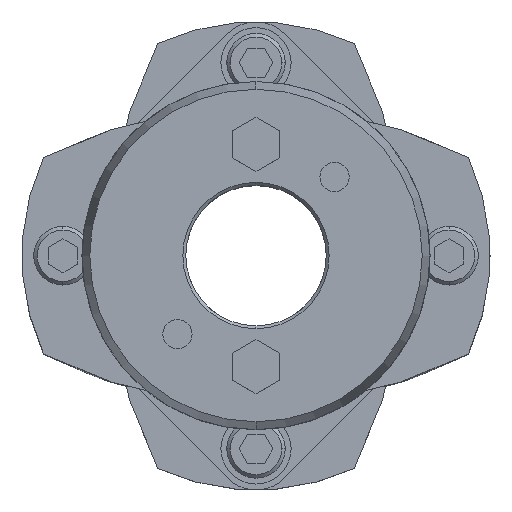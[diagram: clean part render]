
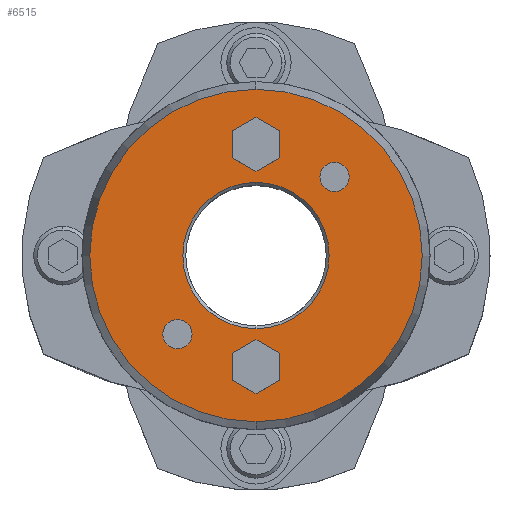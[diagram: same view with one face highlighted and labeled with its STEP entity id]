
A CAD part, top view. The second image highlights one B-rep face of the part: STEP entity #6515.
In plain terms, the highlighted planar face has unit normal (0, 0, 1).
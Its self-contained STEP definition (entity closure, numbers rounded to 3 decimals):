
#1677=CARTESIAN_POINT('',(0.,12.5,45.25));
#1678=VERTEX_POINT('',#1677);
#1694=CARTESIAN_POINT('',(0.,-12.5,45.25));
#1695=VERTEX_POINT('',#1694);
#1702=CARTESIAN_POINT('',(0.,0.,45.25));
#1703=DIRECTION('',(0.0,0.0,1.0));
#1704=DIRECTION('',(0.,1.0,0.0));
#1705=AXIS2_PLACEMENT_3D('',#1702,#1703,#1704);
#1706=CIRCLE('',#1705,12.5);
#1707=EDGE_CURVE('',#1695,#1678,#1706,.T.);
#1823=CARTESIAN_POINT('',(0.,-28.41,45.25));
#1824=VERTEX_POINT('',#1823);
#1833=CARTESIAN_POINT('',(0.,28.41,45.25));
#1834=VERTEX_POINT('',#1833);
#1835=CARTESIAN_POINT('',(0.,0.,45.25));
#1836=DIRECTION('',(0.0,0.0,-1.0));
#1837=DIRECTION('',(0.,-1.0,0.0));
#1838=AXIS2_PLACEMENT_3D('',#1835,#1836,#1837);
#1839=CIRCLE('',#1838,28.41);
#1840=EDGE_CURVE('',#1824,#1834,#1839,.T.);
#2009=CARTESIAN_POINT('',(13.435,15.935,45.25));
#2010=VERTEX_POINT('',#2009);
#2026=CARTESIAN_POINT('',(13.435,10.935,45.25));
#2027=VERTEX_POINT('',#2026);
#2034=CARTESIAN_POINT('',(13.435,13.435,45.25));
#2035=DIRECTION('',(0.0,0.0,-1.0));
#2036=DIRECTION('',(0.,1.0,0.0));
#2037=AXIS2_PLACEMENT_3D('',#2034,#2035,#2036);
#2038=CIRCLE('',#2037,2.5);
#2039=EDGE_CURVE('',#2010,#2027,#2038,.T.);
#2051=CARTESIAN_POINT('',(-13.435,-10.935,45.25));
#2052=VERTEX_POINT('',#2051);
#2068=CARTESIAN_POINT('',(-13.435,-15.935,45.25));
#2069=VERTEX_POINT('',#2068);
#2076=CARTESIAN_POINT('',(-13.435,-13.435,45.25));
#2077=DIRECTION('',(0.0,0.0,-1.0));
#2078=DIRECTION('',(0.,1.0,0.0));
#2079=AXIS2_PLACEMENT_3D('',#2076,#2077,#2078);
#2080=CIRCLE('',#2079,2.5);
#2081=EDGE_CURVE('',#2052,#2069,#2080,.T.);
#5641=CARTESIAN_POINT('',(0.,-14.381,45.25));
#5642=VERTEX_POINT('',#5641);
#5649=CARTESIAN_POINT('',(-4.,-16.691,45.25));
#5650=VERTEX_POINT('',#5649);
#5651=CARTESIAN_POINT('',(-4.,-16.691,45.25));
#5652=DIRECTION('',(0.866,0.5,0.0));
#5653=VECTOR('',#5652,4.619);
#5654=LINE('',#5651,#5653);
#5655=EDGE_CURVE('',#5650,#5642,#5654,.T.);
#5679=CARTESIAN_POINT('',(4.,-16.691,45.25));
#5680=VERTEX_POINT('',#5679);
#5687=CARTESIAN_POINT('',(0.,-14.381,45.25));
#5688=DIRECTION('',(0.866,-0.5,0.0));
#5689=VECTOR('',#5688,4.619);
#5690=LINE('',#5687,#5689);
#5691=EDGE_CURVE('',#5642,#5680,#5690,.T.);
#5710=CARTESIAN_POINT('',(4.,-21.309,45.25));
#5711=VERTEX_POINT('',#5710);
#5718=CARTESIAN_POINT('',(4.,-16.691,45.25));
#5719=DIRECTION('',(0.,-1.0,0.0));
#5720=VECTOR('',#5719,4.619);
#5721=LINE('',#5718,#5720);
#5722=EDGE_CURVE('',#5680,#5711,#5721,.T.);
#5741=CARTESIAN_POINT('',(0.,-23.619,45.25));
#5742=VERTEX_POINT('',#5741);
#5749=CARTESIAN_POINT('',(4.,-21.309,45.25));
#5750=DIRECTION('',(-0.866,-0.5,0.0));
#5751=VECTOR('',#5750,4.619);
#5752=LINE('',#5749,#5751);
#5753=EDGE_CURVE('',#5711,#5742,#5752,.T.);
#5772=CARTESIAN_POINT('',(-4.,-21.309,45.25));
#5773=VERTEX_POINT('',#5772);
#5780=CARTESIAN_POINT('',(0.,-23.619,45.25));
#5781=DIRECTION('',(-0.866,0.5,0.0));
#5782=VECTOR('',#5781,4.619);
#5783=LINE('',#5780,#5782);
#5784=EDGE_CURVE('',#5742,#5773,#5783,.T.);
#5802=CARTESIAN_POINT('',(-4.,-21.309,45.25));
#5803=DIRECTION('',(0.,1.0,0.0));
#5804=VECTOR('',#5803,4.619);
#5805=LINE('',#5802,#5804);
#5806=EDGE_CURVE('',#5773,#5650,#5805,.T.);
#5841=CARTESIAN_POINT('',(0.,23.619,45.25));
#5842=VERTEX_POINT('',#5841);
#5849=CARTESIAN_POINT('',(-4.,21.309,45.25));
#5850=VERTEX_POINT('',#5849);
#5851=CARTESIAN_POINT('',(-4.,21.309,45.25));
#5852=DIRECTION('',(0.866,0.5,0.0));
#5853=VECTOR('',#5852,4.619);
#5854=LINE('',#5851,#5853);
#5855=EDGE_CURVE('',#5850,#5842,#5854,.T.);
#5879=CARTESIAN_POINT('',(4.,21.309,45.25));
#5880=VERTEX_POINT('',#5879);
#5887=CARTESIAN_POINT('',(0.,23.619,45.25));
#5888=DIRECTION('',(0.866,-0.5,0.0));
#5889=VECTOR('',#5888,4.619);
#5890=LINE('',#5887,#5889);
#5891=EDGE_CURVE('',#5842,#5880,#5890,.T.);
#5910=CARTESIAN_POINT('',(4.,16.691,45.25));
#5911=VERTEX_POINT('',#5910);
#5918=CARTESIAN_POINT('',(4.,21.309,45.25));
#5919=DIRECTION('',(0.,-1.0,0.0));
#5920=VECTOR('',#5919,4.619);
#5921=LINE('',#5918,#5920);
#5922=EDGE_CURVE('',#5880,#5911,#5921,.T.);
#5941=CARTESIAN_POINT('',(0.,14.381,45.25));
#5942=VERTEX_POINT('',#5941);
#5949=CARTESIAN_POINT('',(4.,16.691,45.25));
#5950=DIRECTION('',(-0.866,-0.5,0.0));
#5951=VECTOR('',#5950,4.619);
#5952=LINE('',#5949,#5951);
#5953=EDGE_CURVE('',#5911,#5942,#5952,.T.);
#5972=CARTESIAN_POINT('',(-4.,16.691,45.25));
#5973=VERTEX_POINT('',#5972);
#5980=CARTESIAN_POINT('',(0.,14.381,45.25));
#5981=DIRECTION('',(-0.866,0.5,0.0));
#5982=VECTOR('',#5981,4.619);
#5983=LINE('',#5980,#5982);
#5984=EDGE_CURVE('',#5942,#5973,#5983,.T.);
#6002=CARTESIAN_POINT('',(-4.,16.691,45.25));
#6003=DIRECTION('',(0.,1.0,0.0));
#6004=VECTOR('',#6003,4.619);
#6005=LINE('',#6002,#6004);
#6006=EDGE_CURVE('',#5973,#5850,#6005,.T.);
#6032=CARTESIAN_POINT('',(-13.435,-13.435,45.25));
#6033=DIRECTION('',(0.0,0.0,-1.0));
#6034=DIRECTION('',(0.,1.0,0.0));
#6035=AXIS2_PLACEMENT_3D('',#6032,#6033,#6034);
#6036=CIRCLE('',#6035,2.5);
#6037=EDGE_CURVE('',#2069,#2052,#6036,.T.);
#6066=CARTESIAN_POINT('',(13.435,13.435,45.25));
#6067=DIRECTION('',(0.0,0.0,-1.0));
#6068=DIRECTION('',(0.,1.0,0.0));
#6069=AXIS2_PLACEMENT_3D('',#6066,#6067,#6068);
#6070=CIRCLE('',#6069,2.5);
#6071=EDGE_CURVE('',#2027,#2010,#6070,.T.);
#6462=CARTESIAN_POINT('',(0.,0.,45.25));
#6463=DIRECTION('',(0.0,0.0,-1.0));
#6464=DIRECTION('',(0.,-1.0,0.0));
#6465=AXIS2_PLACEMENT_3D('',#6462,#6463,#6464);
#6466=CIRCLE('',#6465,28.41);
#6467=EDGE_CURVE('',#1834,#1824,#6466,.T.);
#6472=CARTESIAN_POINT('',(0.,2.364,45.25));
#6473=DIRECTION('',(0.0,0.0,1.0));
#6474=DIRECTION('',(0.,1.0,0.0));
#6475=AXIS2_PLACEMENT_3D('',#6472,#6473,#6474);
#6476=PLANE('',#6475);
#6477=ORIENTED_EDGE('',*,*,#6467,.F.);
#6478=ORIENTED_EDGE('',*,*,#1840,.F.);
#6479=EDGE_LOOP('',(#6477,#6478));
#6480=FACE_OUTER_BOUND('',#6479,.T.);
#6481=ORIENTED_EDGE('',*,*,#5655,.T.);
#6482=ORIENTED_EDGE('',*,*,#5691,.T.);
#6483=ORIENTED_EDGE('',*,*,#5722,.T.);
#6484=ORIENTED_EDGE('',*,*,#5753,.T.);
#6485=ORIENTED_EDGE('',*,*,#5784,.T.);
#6486=ORIENTED_EDGE('',*,*,#5806,.T.);
#6487=EDGE_LOOP('',(#6481,#6482,#6483,#6484,#6485,#6486));
#6488=FACE_BOUND('',#6487,.T.);
#6489=ORIENTED_EDGE('',*,*,#5855,.T.);
#6490=ORIENTED_EDGE('',*,*,#5891,.T.);
#6491=ORIENTED_EDGE('',*,*,#5922,.T.);
#6492=ORIENTED_EDGE('',*,*,#5953,.T.);
#6493=ORIENTED_EDGE('',*,*,#5984,.T.);
#6494=ORIENTED_EDGE('',*,*,#6006,.T.);
#6495=EDGE_LOOP('',(#6489,#6490,#6491,#6492,#6493,#6494));
#6496=FACE_BOUND('',#6495,.T.);
#6497=ORIENTED_EDGE('',*,*,#2081,.T.);
#6498=ORIENTED_EDGE('',*,*,#6037,.T.);
#6499=EDGE_LOOP('',(#6497,#6498));
#6500=FACE_BOUND('',#6499,.T.);
#6501=ORIENTED_EDGE('',*,*,#2039,.T.);
#6502=ORIENTED_EDGE('',*,*,#6071,.T.);
#6503=EDGE_LOOP('',(#6501,#6502));
#6504=FACE_BOUND('',#6503,.T.);
#6505=ORIENTED_EDGE('',*,*,#1707,.F.);
#6506=CARTESIAN_POINT('',(0.,0.,45.25));
#6507=DIRECTION('',(0.0,0.0,1.0));
#6508=DIRECTION('',(0.,1.0,0.0));
#6509=AXIS2_PLACEMENT_3D('',#6506,#6507,#6508);
#6510=CIRCLE('',#6509,12.5);
#6511=EDGE_CURVE('',#1678,#1695,#6510,.T.);
#6512=ORIENTED_EDGE('',*,*,#6511,.F.);
#6513=EDGE_LOOP('',(#6505,#6512));
#6514=FACE_BOUND('',#6513,.T.);
#6515=ADVANCED_FACE('',(#6480,#6488,#6496,#6500,#6504,#6514),#6476,.T.);
